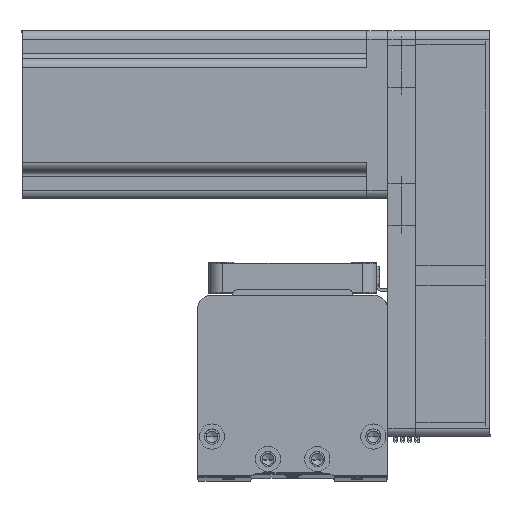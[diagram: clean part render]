
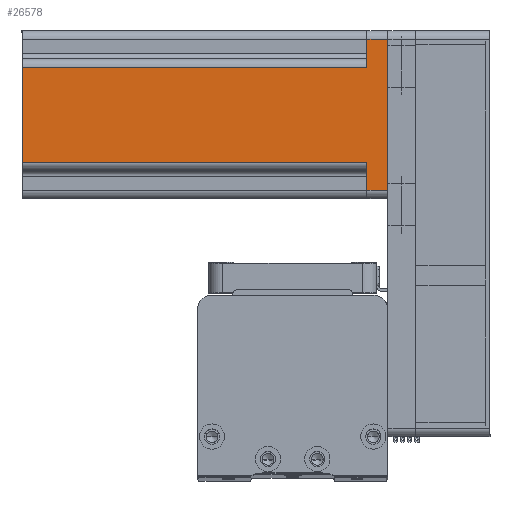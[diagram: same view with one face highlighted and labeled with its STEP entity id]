
A CAD part, top view. The second image highlights one B-rep face of the part: STEP entity #26578.
In plain terms, the highlighted planar face has unit normal (0, 0, 1) as drawn and (0, -1, 0) by its records, which use the part's own axes.
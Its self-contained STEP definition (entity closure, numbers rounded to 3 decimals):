
#394 = ORIENTED_EDGE ( 'NONE', *, *, #38357, .T. ) ;
#491 = DIRECTION ( 'NONE',  ( -1., 0., 0. ) ) ;
#575 = EDGE_LOOP ( 'NONE', ( #10777, #6710, #8976, #13018, #22491, #12339, #394, #11644 ) ) ;
#832 = EDGE_CURVE ( 'NONE', #29133, #39698, #6299, .T. ) ;
#1293 = VERTEX_POINT ( 'NONE', #25882 ) ;
#4546 = VERTEX_POINT ( 'NONE', #25923 ) ;
#6299 = LINE ( 'NONE', #33873, #15995 ) ;
#6710 = ORIENTED_EDGE ( 'NONE', *, *, #36825, .T. ) ;
#6923 = VECTOR ( 'NONE', #35969, 1000. ) ;
#6987 = LINE ( 'NONE', #11753, #25097 ) ;
#8075 = LINE ( 'NONE', #43255, #6923 ) ;
#8433 = CARTESIAN_POINT ( 'NONE',  ( 30., -30., 0. ) ) ;
#8532 = DIRECTION ( 'NONE',  ( 1., 0., 0. ) ) ;
#8976 = ORIENTED_EDGE ( 'NONE', *, *, #16569, .F. ) ;
#9589 = VERTEX_POINT ( 'NONE', #38457 ) ;
#10343 = VECTOR ( 'NONE', #26841, 1000. ) ;
#10777 = ORIENTED_EDGE ( 'NONE', *, *, #832, .F. ) ;
#11132 = CARTESIAN_POINT ( 'NONE',  ( -17., -30., 130.7 ) ) ;
#11313 = VECTOR ( 'NONE', #30127, 1000. ) ;
#11644 = ORIENTED_EDGE ( 'NONE', *, *, #40220, .T. ) ;
#11753 = CARTESIAN_POINT ( 'NONE',  ( 20., -30., 7.5 ) ) ;
#12339 = ORIENTED_EDGE ( 'NONE', *, *, #15772, .T. ) ;
#13018 = ORIENTED_EDGE ( 'NONE', *, *, #36043, .T. ) ;
#14703 = VECTOR ( 'NONE', #43931, 1000. ) ;
#14896 = CARTESIAN_POINT ( 'NONE',  ( -17., -30., 130.7 ) ) ;
#14975 = VERTEX_POINT ( 'NONE', #25465 ) ;
#15772 = EDGE_CURVE ( 'NONE', #4546, #1293, #40479, .T. ) ;
#15869 = LINE ( 'NONE', #14896, #14703 ) ;
#15995 = VECTOR ( 'NONE', #8532, 1000. ) ;
#16162 = CARTESIAN_POINT ( 'NONE',  ( 30., -30., 130.7 ) ) ;
#16569 = EDGE_CURVE ( 'NONE', #43556, #44926, #8075, .T. ) ;
#17519 = CARTESIAN_POINT ( 'NONE',  ( -27., -30., 130.7 ) ) ;
#19239 = VECTOR ( 'NONE', #23929, 1000. ) ;
#19786 = DIRECTION ( 'NONE',  ( -1., 0., 0. ) ) ;
#22491 = ORIENTED_EDGE ( 'NONE', *, *, #40017, .T. ) ;
#23588 = FACE_OUTER_BOUND ( 'NONE', #575, .T. ) ;
#23929 = DIRECTION ( 'NONE',  ( 0., 0., 1. ) ) ;
#24993 = LINE ( 'NONE', #17519, #26148 ) ;
#25097 = VECTOR ( 'NONE', #491, 1000. ) ;
#25465 = CARTESIAN_POINT ( 'NONE',  ( -27., -30., 0. ) ) ;
#25882 = CARTESIAN_POINT ( 'NONE',  ( 27., -30., 7.5 ) ) ;
#25923 = CARTESIAN_POINT ( 'NONE',  ( 27., -30., 0. ) ) ;
#26148 = VECTOR ( 'NONE', #39234, 1000. ) ;
#26578 = ADVANCED_FACE ( 'NONE', ( #23588 ), #41224, .F. ) ;
#26841 = DIRECTION ( 'NONE',  ( 0., 0., 1. ) ) ;
#27391 = CARTESIAN_POINT ( 'NONE',  ( -17., -30., 7.5 ) ) ;
#28836 = LINE ( 'NONE', #30767, #19239 ) ;
#29133 = VERTEX_POINT ( 'NONE', #11132 ) ;
#30127 = DIRECTION ( 'NONE',  ( 1., 0., 0. ) ) ;
#30767 = CARTESIAN_POINT ( 'NONE',  ( 17., -30., 130.7 ) ) ;
#31747 = CARTESIAN_POINT ( 'NONE',  ( 17., -30., 130.7 ) ) ;
#32734 = CARTESIAN_POINT ( 'NONE',  ( -27., -30., 7.5 ) ) ;
#33873 = CARTESIAN_POINT ( 'NONE',  ( 30., -30., 130.7 ) ) ;
#34853 = AXIS2_PLACEMENT_3D ( 'NONE', #16162, #41544, #19786 ) ;
#35969 = DIRECTION ( 'NONE',  ( 1., 0., 0. ) ) ;
#36043 = EDGE_CURVE ( 'NONE', #43556, #14975, #24993, .T. ) ;
#36825 = EDGE_CURVE ( 'NONE', #29133, #44926, #15869, .T. ) ;
#38006 = LINE ( 'NONE', #8433, #11313 ) ;
#38357 = EDGE_CURVE ( 'NONE', #1293, #9589, #6987, .T. ) ;
#38457 = CARTESIAN_POINT ( 'NONE',  ( 17., -30., 7.5 ) ) ;
#39234 = DIRECTION ( 'NONE',  ( 0., 0., -1. ) ) ;
#39698 = VERTEX_POINT ( 'NONE', #31747 ) ;
#40017 = EDGE_CURVE ( 'NONE', #14975, #4546, #38006, .T. ) ;
#40220 = EDGE_CURVE ( 'NONE', #9589, #39698, #28836, .T. ) ;
#40479 = LINE ( 'NONE', #44979, #10343 ) ;
#41224 = PLANE ( 'NONE',  #34853 ) ;
#41544 = DIRECTION ( 'NONE',  ( 0., 1., 0. ) ) ;
#43255 = CARTESIAN_POINT ( 'NONE',  ( -20., -30., 7.5 ) ) ;
#43556 = VERTEX_POINT ( 'NONE', #32734 ) ;
#43931 = DIRECTION ( 'NONE',  ( 0., 0., -1. ) ) ;
#44926 = VERTEX_POINT ( 'NONE', #27391 ) ;
#44979 = CARTESIAN_POINT ( 'NONE',  ( 27., -30., 130.7 ) ) ;
